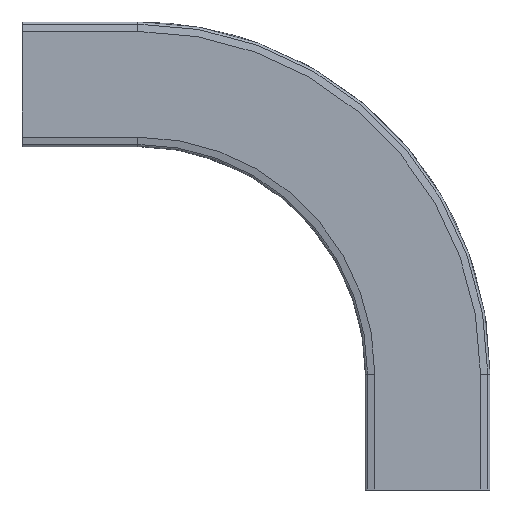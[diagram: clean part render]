
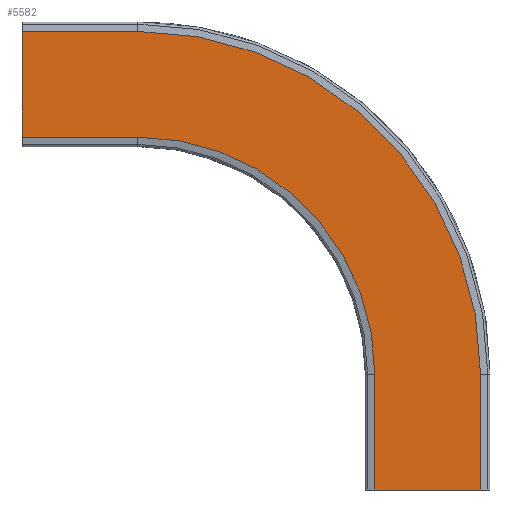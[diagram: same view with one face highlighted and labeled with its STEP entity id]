
A CAD part, front view. The second image highlights one B-rep face of the part: STEP entity #5582.
In plain terms, the highlighted planar face has unit normal (0, -1, 0).
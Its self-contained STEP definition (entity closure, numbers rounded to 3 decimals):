
#5213=CARTESIAN_POINT('',(36.5,-11.,0.0));
#5214=VERTEX_POINT('',#5213);
#5221=CARTESIAN_POINT('',(-36.5,-11.,0.0));
#5222=VERTEX_POINT('',#5221);
#5223=CARTESIAN_POINT('',(-36.5,-11.,0.0));
#5224=DIRECTION('',(1.0,0.0,0.0));
#5225=VECTOR('',#5224,73.);
#5226=LINE('',#5223,#5225);
#5227=EDGE_CURVE('',#5222,#5214,#5226,.T.);
#5293=CARTESIAN_POINT('',(-36.5,-11.,80.0));
#5294=VERTEX_POINT('',#5293);
#5308=CARTESIAN_POINT('',(-36.5,-11.,0.0));
#5309=DIRECTION('',(0.0,0.0,1.0));
#5310=VECTOR('',#5309,80.0);
#5311=LINE('',#5308,#5310);
#5312=EDGE_CURVE('',#5222,#5294,#5311,.T.);
#5322=CARTESIAN_POINT('',(36.5,-11.,80.0));
#5323=VERTEX_POINT('',#5322);
#5332=CARTESIAN_POINT('',(36.5,-11.,0.0));
#5333=DIRECTION('',(0.0,0.0,1.0));
#5334=VECTOR('',#5333,80.0);
#5335=LINE('',#5332,#5334);
#5336=EDGE_CURVE('',#5214,#5323,#5335,.T.);
#5409=CARTESIAN_POINT('',(-200.0,-11.,316.5));
#5410=VERTEX_POINT('',#5409);
#5419=CARTESIAN_POINT('',(-200.0,-11.,80.0));
#5420=DIRECTION('',(0.0,-1.0,0.0));
#5421=DIRECTION('',(1.0,0.0,0.0));
#5422=AXIS2_PLACEMENT_3D('',#5419,#5420,#5421);
#5423=CIRCLE('',#5422,236.5);
#5424=EDGE_CURVE('',#5323,#5410,#5423,.T.);
#5476=CARTESIAN_POINT('',(-200.0,-11.,243.5));
#5477=VERTEX_POINT('',#5476);
#5492=CARTESIAN_POINT('',(-200.0,-11.,80.0));
#5493=DIRECTION('',(0.0,-1.0,0.0));
#5494=DIRECTION('',(1.0,0.0,0.0));
#5495=AXIS2_PLACEMENT_3D('',#5492,#5493,#5494);
#5496=CIRCLE('',#5495,163.5);
#5497=EDGE_CURVE('',#5294,#5477,#5496,.T.);
#5536=CARTESIAN_POINT('',(-280.,-11.,243.5));
#5537=VERTEX_POINT('',#5536);
#5546=CARTESIAN_POINT('',(-200.0,-11.,243.5));
#5547=DIRECTION('',(-1.0,0.0,0.0));
#5548=VECTOR('',#5547,80.);
#5549=LINE('',#5546,#5548);
#5550=EDGE_CURVE('',#5477,#5537,#5549,.T.);
#5555=CARTESIAN_POINT('',(194.159,-11.,316.5));
#5556=DIRECTION('',(0.0,-1.0,0.0));
#5557=DIRECTION('',(1.0,0.0,0.0));
#5558=AXIS2_PLACEMENT_3D('',#5555,#5556,#5557);
#5559=PLANE('',#5558);
#5560=CARTESIAN_POINT('',(-280.,-11.,316.5));
#5561=VERTEX_POINT('',#5560);
#5562=CARTESIAN_POINT('',(-280.,-11.,316.5));
#5563=DIRECTION('',(0.0,0.0,-1.0));
#5564=VECTOR('',#5563,73.);
#5565=LINE('',#5562,#5564);
#5566=EDGE_CURVE('',#5561,#5537,#5565,.T.);
#5567=ORIENTED_EDGE('',*,*,#5566,.T.);
#5568=ORIENTED_EDGE('',*,*,#5550,.F.);
#5569=ORIENTED_EDGE('',*,*,#5497,.F.);
#5570=ORIENTED_EDGE('',*,*,#5312,.F.);
#5571=ORIENTED_EDGE('',*,*,#5227,.T.);
#5572=ORIENTED_EDGE('',*,*,#5336,.T.);
#5573=ORIENTED_EDGE('',*,*,#5424,.T.);
#5574=CARTESIAN_POINT('',(-200.0,-11.,316.5));
#5575=DIRECTION('',(-1.0,0.0,0.0));
#5576=VECTOR('',#5575,80.);
#5577=LINE('',#5574,#5576);
#5578=EDGE_CURVE('',#5410,#5561,#5577,.T.);
#5579=ORIENTED_EDGE('',*,*,#5578,.T.);
#5580=EDGE_LOOP('',(#5567,#5568,#5569,#5570,#5571,#5572,#5573,#5579));
#5581=FACE_OUTER_BOUND('',#5580,.T.);
#5582=ADVANCED_FACE('',(#5581),#5559,.T.);
